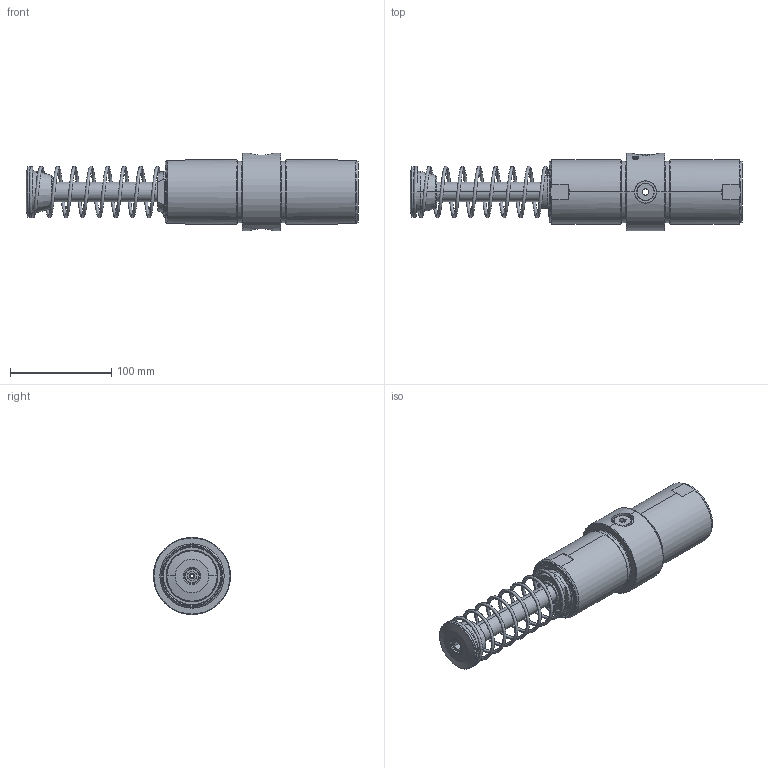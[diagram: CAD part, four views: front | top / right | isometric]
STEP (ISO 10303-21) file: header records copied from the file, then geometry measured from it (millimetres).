
FILE_DESCRIPTION (( 'STEP AP203' ), '1' );
FILE_NAME ('OEMXT 2.0M X 4.STEP', '2009-03-25T15:07:56', ( ' ' ), ( '' ), 'SwSTEP 2.0', 'SolidWorks 2006233', '' );
FILE_SCHEMA (( 'CONFIG_CONTROL_DESIGN' ));
Length unit declared in the file: inch
Products named in the file (1): OEMXT 2.0M X 4
Bounding box: 327.74 x 76.07 x 76.07 mm (x, y, z)
Surface area: 82750.4 mm2 (no closed solid volume)
Topology: 0 solids, 29 shells, 218 faces, 863 edges, 670 vertices
Faces by surface type: plane 88, cylinder 57, cone 50, torus 17, bspline 6
Entity records: 16374 total; most frequent: CARTESIAN_POINT 9545, DIRECTION 1276, ORIENTED_EDGE 1273, EDGE_CURVE 863, VERTEX_POINT 670, AXIS2_PLACEMENT_3D 447, VECTOR 382, LINE 382
